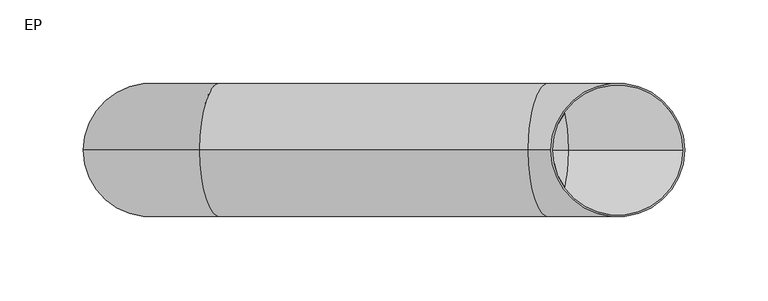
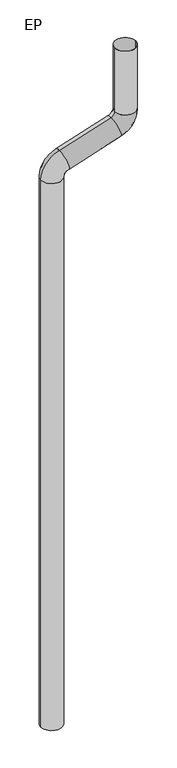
"""IFC4 building model written with IfcOpenShell, lengths in millimetres: flow terminal geometry, Descente Eau pluviale : EP."""

from ifc_helpers import new_model, si_unit, point, frame, origin, place, context, project, spatial, polyline, circle_curve, ellipse_curve, trimmed, source, transform, mapped, element, save
from ifc_brep_helpers import plane_surface, cylinder_surface, revolved_surface, advanced_brep


def ep_5d061a31(model_context):
    return source(origin(), model_context, "Body", "AdvancedBrep", [
        advanced_brep(
        [(40.0, -300.0, 870000.0), (-40.0, -300.0, 870000.0), (39.0, -300.0, 870000.0), (-39.0, -300.0, 870000.0), (40.0, -300.0, 872196.262395), (-40.0, -300.0, 872196.262395), (39.0, -300.0, 872196.262395), (-39.0, -300.0, 872196.262395), (29.399082, -300.0, 872291.4652511), (53.8798164, -300.0, 872215.3029662), (29.7050911, -300.0, 872290.5132226), (53.5738072, -300.0, 872216.2549948), (250.600918, -300.0, 872278.5347489), (226.1201836, -300.0, 872354.6970338), (250.2949089, -300.0, 872279.4867774), (226.4261928, -300.0, 872353.7450052), (240.0, -300.0, 872373.737605), (320.0, -300.0, 872373.737605), (241.0, -300.0, 872373.737605), (319.0, -300.0, 872373.737605), (320.0, -300.0, 872630.0), (240.0, -300.0, 872630.0), (319.0, -300.0, 872630.0), (241.0, -300.0, 872630.0)],
        [
            (0, 1, circle_curve(frame((0.0, -300.0, 870000.0), z_axis=(0.0, 0.0, -1.0), x_axis=(-1.0, 0.0, 0.0)), 40.0)),
            (1, 0, circle_curve(frame((0.0, -300.0, 870000.0), z_axis=(0.0, 0.0, -1.0), x_axis=(-1.0, 0.0, 0.0)), 40.0)),
            (2, 3, circle_curve(frame((0.0, -300.0, 870000.0), z_axis=(0.0, 0.0, 1.0), x_axis=(-1.0, 0.0, 0.0)), 39.0)),
            (3, 2, circle_curve(frame((0.0, -300.0, 870000.0), z_axis=(0.0, 0.0, 1.0), x_axis=(-1.0, 0.0, 0.0)), 39.0)),
            (0, 4),
            (4, 5, circle_curve(frame((0.0, -300.0, 872196.262395), z_axis=(0.0, 0.0, -1.0), x_axis=(-1.0, 0.0, 0.0)), 40.0)),
            (5, 1),
            (5, 4, circle_curve(frame((0.0, -300.0, 872196.262395), z_axis=(0.0, 0.0, -1.0), x_axis=(-1.0, 0.0, 0.0)), 40.0)),
            (2, 6),
            (6, 7, circle_curve(frame((0.0, -300.0, 872196.262395), z_axis=(0.0, 0.0, 1.0), x_axis=(-1.0, 0.0, 0.0)), 39.0)),
            (7, 3),
            (7, 6, circle_curve(frame((0.0, -300.0, 872196.262395), z_axis=(0.0, 0.0, 1.0), x_axis=(-1.0, 0.0, 0.0)), 39.0)),
            (8, 5, circle_curve(frame((60.0, -300.0, 872196.262395), z_axis=(0.0, -1.0, 0.0), x_axis=(-1.0, 0.0, 0.0)), 100.0)),
            (4, 9, circle_curve(frame((60.0, -300.0, 872196.262395), z_axis=(0.0, 1.0, 0.0), x_axis=(-1.0, 0.0, 0.0)), 20.0)),
            (9, 8, circle_curve(frame((41.6394492, -300.0, 872253.3841087), z_axis=(-0.9520285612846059, 0.0, -0.30600918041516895), x_axis=(-0.30600918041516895, 0.0, 0.9520285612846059)), 40.0)),
            (8, 9, circle_curve(frame((41.6394492, -300.0, 872253.3841087), z_axis=(-0.9520285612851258, 0.0, -0.3060091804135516), x_axis=(-0.3060091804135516, 0.0, 0.9520285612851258)), 40.0)),
            (10, 7, circle_curve(frame((60.0, -300.0, 872196.262395), z_axis=(0.0, -1.0, 0.0), x_axis=(-1.0, 0.0, 0.0)), 99.0)),
            (6, 11, circle_curve(frame((60.0, -300.0, 872196.262395), z_axis=(0.0, 1.0, 0.0), x_axis=(-1.0, 0.0, 0.0)), 21.0)),
            (11, 10, circle_curve(frame((41.6394492, -300.0, 872253.3841087), z_axis=(0.9520285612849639, 0.0, 0.3060091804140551), x_axis=(-0.3060091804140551, 0.0, 0.9520285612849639)), 39.0)),
            (10, 11, circle_curve(frame((41.6394492, -300.0, 872253.3841087), z_axis=(0.9520285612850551, 0.0, 0.30600918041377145), x_axis=(-0.30600918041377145, 0.0, 0.9520285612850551)), 39.0)),
            (9, 12),
            (12, 13, circle_curve(frame((238.3605508, -300.0, 872316.6158913), z_axis=(-0.9520285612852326, 0.0, -0.3060091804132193), x_axis=(-0.3060091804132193, 0.0, 0.9520285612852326)), 40.0)),
            (13, 8),
            (13, 12, circle_curve(frame((238.3605508, -300.0, 872316.6158913), z_axis=(-0.9520285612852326, 0.0, -0.3060091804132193), x_axis=(-0.3060091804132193, 0.0, 0.9520285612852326)), 40.0)),
            (11, 14),
            (14, 15, circle_curve(frame((238.3605508, -300.0, 872316.6158913), z_axis=(0.9520285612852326, 0.0, 0.3060091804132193), x_axis=(-0.3060091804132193, 0.0, 0.9520285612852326)), 39.0)),
            (15, 10),
            (15, 14, circle_curve(frame((238.3605508, -300.0, 872316.6158913), z_axis=(0.9520285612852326, 0.0, 0.3060091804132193), x_axis=(-0.3060091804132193, 0.0, 0.9520285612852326)), 39.0)),
            (16, 13, circle_curve(frame((220.0, -300.0, 872373.737605), z_axis=(0.0, 1.0, 0.0), x_axis=(0.30600918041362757, 0.0, -0.9520285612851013)), 20.0)),
            (12, 17, circle_curve(frame((220.0, -300.0, 872373.737605), z_axis=(0.0, -1.0, 0.0), x_axis=(0.30600918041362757, 0.0, -0.9520285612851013)), 100.0)),
            (17, 16, circle_curve(frame((280.0, -300.0, 872373.737605), z_axis=(0.0, 0.0, -1.0), x_axis=(-1.0, 0.0, 0.0)), 40.0)),
            (16, 17, circle_curve(frame((280.0, -300.0, 872373.737605), z_axis=(-1.4114820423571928e-12, 0.0, -0.9999999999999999), x_axis=(-0.9999999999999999, 0.0, 1.4114820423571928e-12)), 40.0)),
            (18, 15, circle_curve(frame((220.0, -300.0, 872373.737605), z_axis=(0.0, 1.0, 0.0), x_axis=(0.30600918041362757, 0.0, -0.9520285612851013)), 21.0)),
            (14, 19, circle_curve(frame((220.0, -300.0, 872373.737605), z_axis=(0.0, -1.0, 0.0), x_axis=(0.30600918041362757, 0.0, -0.9520285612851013)), 99.0)),
            (19, 18, circle_curve(frame((280.0, -300.0, 872373.737605), z_axis=(0.0, 0.0, 0.9999999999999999), x_axis=(-0.9999999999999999, 0.0, 0.0)), 39.0)),
            (18, 19, circle_curve(frame((280.0, -300.0, 872373.737605), z_axis=(2.328748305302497e-12, 0.0, 1.0), x_axis=(-1.0, 0.0, 2.328748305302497e-12)), 39.0)),
            (20, 21, circle_curve(frame((280.0, -300.0, 872630.0), z_axis=(0.0, 0.0, 1.0), x_axis=(-1.0, 0.0, 0.0)), 40.0)),
            (21, 20, circle_curve(frame((280.0, -300.0, 872630.0), z_axis=(0.0, 0.0, 1.0), x_axis=(-1.0, 0.0, 0.0)), 40.0)),
            (22, 23, circle_curve(frame((280.0, -300.0, 872630.0), z_axis=(0.0, 0.0, -1.0), x_axis=(-1.0, 0.0, 0.0)), 39.0)),
            (23, 22, circle_curve(frame((280.0, -300.0, 872630.0), z_axis=(0.0, 0.0, -1.0), x_axis=(-1.0, 0.0, 0.0)), 39.0)),
            (17, 20),
            (21, 16),
            (19, 22),
            (23, 18),
        ],
        [
            plane_surface(frame((0.0, -300.0, 870000.0), z_axis=(0.0, 0.0, -1.0), x_axis=(0.0, -1.0, 0.0))),
            cylinder_surface(frame((0.0, -300.0, 870000.0), z_axis=(0.0, 0.0, -1.0), x_axis=(-1.0, 0.0, 0.0)), 40.0),
            revolved_surface(polyline([(-39.0, -300.0, 872196.262395), (-39.0, -300.0, 870000.0)]), (0.0, -300.0, 870000.0), (0.0, 0.0, 1.0)),
            revolved_surface(trimmed(ellipse_curve(frame((0.0, -300.0, 872196.262395), z_axis=(0.0, 0.0, -1.0), x_axis=(-1.0, 0.0, 0.0)), 40.0, 40.0), [point((40.0, -300.0, 872196.262395))], [point((-40.0, -300.0, 872196.262395))], True, "CARTESIAN"), (60.0, -300.0, 872196.262395), (0.0, 1.0, 0.0)),
            revolved_surface(trimmed(ellipse_curve(frame((0.0, -300.0, 872196.262395), z_axis=(0.0, 0.0, -1.0), x_axis=(-1.0, 0.0, 0.0)), 40.0, 40.0), [point((-40.0, -300.0, 872196.262395))], [point((40.0, -300.0, 872196.262395))], True, "CARTESIAN"), (60.0, -300.0, 872196.262395), (0.0, 1.0, 0.0)),
            revolved_surface(trimmed(ellipse_curve(frame((0.0, -300.0, 872196.262395), z_axis=(0.0, 0.0, 1.0), x_axis=(-1.0, 0.0, 0.0)), 39.0, 39.0), [point((39.0, -300.0, 872196.262395))], [point((-39.0, -300.0, 872196.262395))], True, "CARTESIAN"), (60.0, -300.0, 872196.262395), (0.0, 1.0, 0.0)),
            revolved_surface(trimmed(ellipse_curve(frame((0.0, -300.0, 872196.262395), z_axis=(0.0, 0.0, 1.0), x_axis=(-1.0, 0.0, 0.0)), 39.0, 39.0), [point((-39.0, -300.0, 872196.262395))], [point((39.0, -300.0, 872196.262395))], True, "CARTESIAN"), (60.0, -300.0, 872196.262395), (0.0, 1.0, 0.0)),
            cylinder_surface(frame((41.6394492, -300.0, 872253.3841087), z_axis=(-0.9520285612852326, 0.0, -0.3060091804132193), x_axis=(-0.3060091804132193, 0.0, 0.9520285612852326)), 40.0),
            revolved_surface(polyline([(226.4261928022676, -300.0, 872353.7450052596), (29.70509110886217, -300.0, 872290.5132225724)]), (41.6394492, -300.0, 872253.3841087), (0.9520285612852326, 0.0, 0.3060091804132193)),
            revolved_surface(trimmed(ellipse_curve(frame((238.3605508, -300.0, 872316.6158913), z_axis=(-0.9520285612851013, 0.0, -0.3060091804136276), x_axis=(-0.3060091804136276, 0.0, 0.9520285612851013)), 40.0, 40.0), [point((250.600918, -300.0, 872278.5347489))], [point((226.1201836, -300.0, 872354.6970338))], True, "CARTESIAN"), (220.0, -300.0, 872373.737605), (0.0, -1.0, 0.0)),
            revolved_surface(trimmed(ellipse_curve(frame((238.3605508, -300.0, 872316.6158913), z_axis=(-0.9520285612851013, 0.0, -0.3060091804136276), x_axis=(-0.3060091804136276, 0.0, 0.9520285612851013)), 40.0, 40.0), [point((226.1201836, -300.0, 872354.6970338))], [point((250.600918, -300.0, 872278.5347489))], True, "CARTESIAN"), (220.0, -300.0, 872373.737605), (0.0, -1.0, 0.0)),
            revolved_surface(trimmed(ellipse_curve(frame((238.3605508, -300.0, 872316.6158913), z_axis=(0.9520285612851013, 0.0, 0.3060091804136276), x_axis=(-0.3060091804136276, 0.0, 0.9520285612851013)), 39.0, 39.0), [point((250.2949089, -300.0, 872279.4867774))], [point((226.4261928, -300.0, 872353.7450052))], True, "CARTESIAN"), (220.0, -300.0, 872373.737605), (0.0, -1.0, 0.0)),
            revolved_surface(trimmed(ellipse_curve(frame((238.3605508, -300.0, 872316.6158913), z_axis=(0.9520285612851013, 0.0, 0.3060091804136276), x_axis=(-0.3060091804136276, 0.0, 0.9520285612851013)), 39.0, 39.0), [point((226.4261928, -300.0, 872353.7450052))], [point((250.2949089, -300.0, 872279.4867774))], True, "CARTESIAN"), (220.0, -300.0, 872373.737605), (0.0, -1.0, 0.0)),
            plane_surface(frame((280.0, -300.0, 872630.0), z_axis=(0.0, 0.0, 1.0), x_axis=(0.0, -1.0, 0.0))),
            cylinder_surface(frame((280.0, -300.0, 872373.737605), z_axis=(0.0, 0.0, -1.0), x_axis=(-1.0, 0.0, 0.0)), 40.0),
            revolved_surface(polyline([(241.0, -300.0, 872630.0), (241.0, -300.0, 872373.737605)]), (280.0, -300.0, 872373.737605), (0.0, 0.0, 1.0)),
            revolved_surface(polyline([(241.0, -300.0, 872630.0), (241.0, -300.0, 872373.7376049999)]), (280.0, -300.0, 872373.737605), (0.0, 0.0, 1.0)),
        ],
        [
            (0, [[1, 2], [3, 4]]),
            (1, [[-1, 5, 6, 7]]),
            (1, [[-2, -7, 8, -5]]),
            (2, [[-3, 9, 10, 11]]),
            (2, [[-4, -11, 12, -9]]),
            (3, [[13, -6, 14, 15]]),
            (4, [[-14, -8, -13, 16]]),
            (5, [[17, -10, 18, 19]]),
            (6, [[-18, -12, -17, 20]]),
            (7, [[-15, 21, 22, 23]]),
            (7, [[-16, -23, 24, -21]]),
            (8, [[-19, 25, 26, 27]]),
            (8, [[-20, -27, 28, -25]]),
            (9, [[29, -22, 30, 31]]),
            (10, [[-30, -24, -29, 32]]),
            (11, [[33, -26, 34, 35]]),
            (12, [[-34, -28, -33, 36]]),
            (13, [[37, 38], [39, 40]]),
            (14, [[-31, 41, -38, 42]]),
            (14, [[-32, -42, -37, -41]]),
            (15, [[-35, 43, -40, 44]]),
            (16, [[-36, -44, -39, -43]]),
        ],
    ),
    ])


if __name__ == "__main__":
    model = new_model("IFC4")
    model_context = context("Model", 3, world=origin())
    ifc_project = project(units=[si_unit("LENGTHUNIT", "METRE", prefix="MILLI")], contexts=[model_context])
    site = spatial("IfcSite", under=ifc_project)
    building = spatial("IfcBuilding", under=site)
    placement = place(None, origin())
    ep_shape = ep_5d061a31(model_context)
    element("IfcFlowTerminal", 1, ObjectType="Descente Eau pluviale : EP", at=placement, inside=building, context=model_context, shape_type="MappedRepresentation", body=[
        mapped(ep_shape, transform((0.0, 0.0, 0.0), x_axis=(1.0, 0.0, 0.0), y_axis=(0.0, 1.0, 0.0), z_axis=(0.0, 0.0, 1.0))),
    ])
    save(model, "model.ifc")
